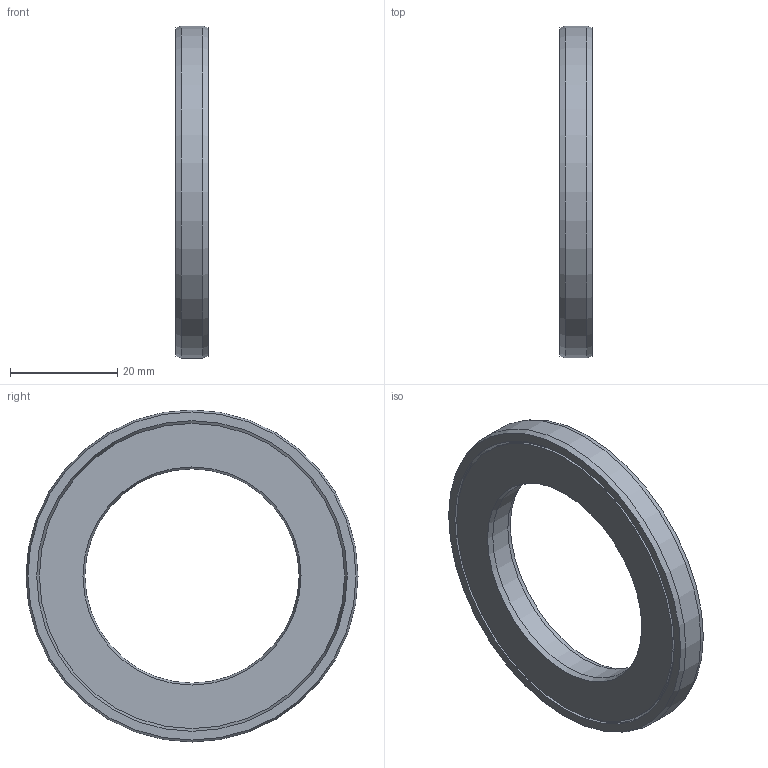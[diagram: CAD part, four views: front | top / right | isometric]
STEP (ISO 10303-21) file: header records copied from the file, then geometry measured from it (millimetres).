
FILE_DESCRIPTION(/* description */ (''),/* implementation_level */ '2;1');
FILE_NAME(/* name */ '307149 CF 61908 S10.stp',/* time_stamp */ '2016-12-16T11:52:59+01:00',/* author */ (''),/* organization */ (''),/* preprocessor_version */ 'ST-DEVELOPER v15',/* originating_system */ 'SIEMENS PLM Software NX 8.5',/* authorisation */ '');
FILE_SCHEMA (('CONFIG_CONTROL_DESIGN'));
Length unit declared in the file: millimetre
Products named in the file (1): ATE0000139_01
Bounding box: 6 x 62 x 62 mm (x, y, z)
Volume: 9259.1 mm3; surface area: 9884.5 mm2
Topology: 2 solids, 2 shells, 26 faces, 46 edges, 28 vertices
Faces by surface type: cone 10, plane 8, cylinder 8
Full cylindrical faces by diameter (mm): 40 x1, 45.5 x1, 46.5 x1, 48 x1, 49 x1, 57 x1, 58 x1, 62 x1
Entity records: 614 total; most frequent: DIRECTION 106, CARTESIAN_POINT 79, AXIS2_PLACEMENT_3D 53, FACE_BOUND 52, EDGE_LOOP 52, ORIENTED_EDGE 52, ADVANCED_FACE 26, VERTEX_POINT 26
